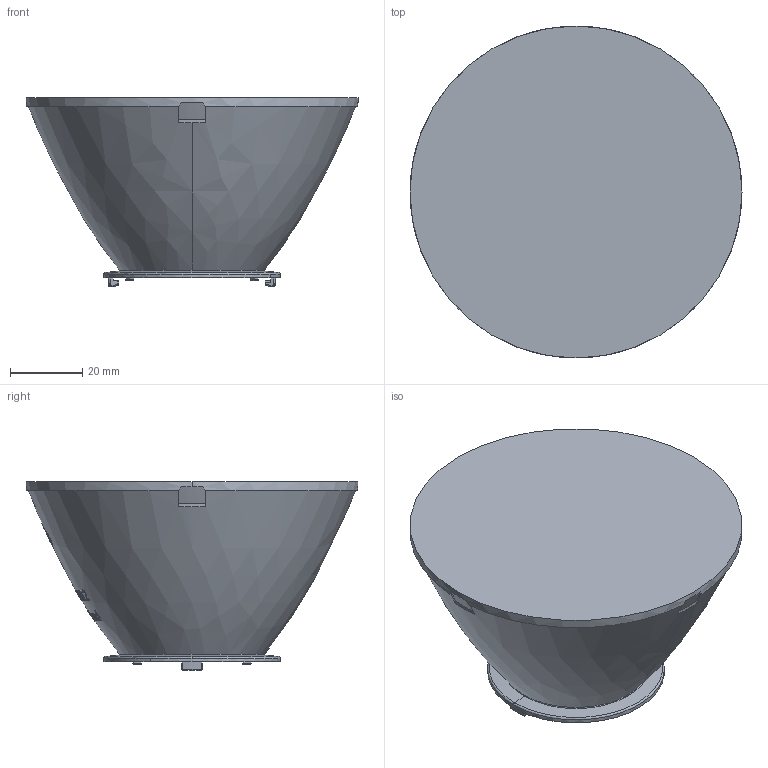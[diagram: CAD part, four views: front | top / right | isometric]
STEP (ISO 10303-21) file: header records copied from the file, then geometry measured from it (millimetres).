
FILE_DESCRIPTION(('CAx-IF Rec.Pracs.---Model Styling and Organization---1.2---2011-12-15','CAx-IF Rec.Pracs.---Geometric and Assembly Validation Properties---4.3---2015-07-16','CAx-IF Rec.Pracs.---Representation and Presentation of Product Manufacturing Information (PMI)---4.0.3---2016-08-25'),'2;1');
FILE_NAME('022YJ0CY05.stp','2022-05-06T07:48:29+02:00',(''),(''),'STEP Interface 4.5 by CT CoreTechnologie','3D_Evolution4.5 by CT CoreTechnologie','');
FILE_SCHEMA(('AP203_CONFIGURATION_CONTROLLED_3D_DESIGN_OF_MECHANICAL_PARTS_AND_ASSEMBLIES_MIM_LF'));
Length unit declared in the file: millimetre
Products named in the file (1): Ã—Ã©ÂºÃ1
Bounding box: 92 x 92 x 52.35 mm (x, y, z)
Volume: 194660.9 mm3; surface area: 21506 mm2
Topology: 1 solids, 1 shells, 425 faces, 1140 edges, 751 vertices
Faces by surface type: bspline 233, plane 152, cylinder 40
Entity records: 72536 total; most frequent: CARTESIAN_POINT 20965, PROPERTY_DEFINITION 6846, SHAPE_REPRESENTATION 3424, SHAPE_DEFINITION_REPRESENTATION 3424, INTEGER_REPRESENTATION_ITEM 3423, REPRESENTATION 3423, SHAPE_ASPECT 3423, ID_ATTRIBUTE 3423
